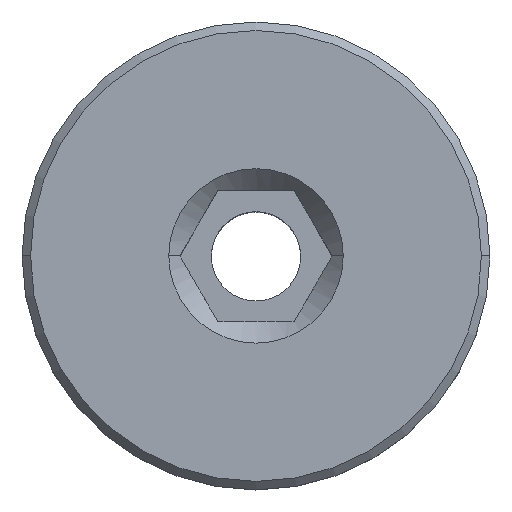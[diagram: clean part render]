
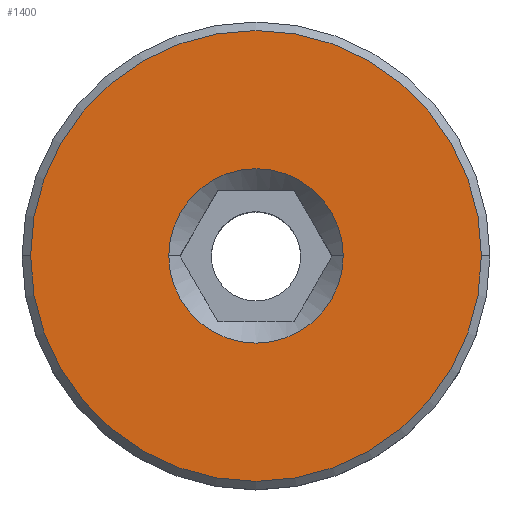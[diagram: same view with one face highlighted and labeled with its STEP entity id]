
A CAD part, top view. The second image highlights one B-rep face of the part: STEP entity #1400.
In plain terms, the highlighted planar face has unit normal (0, 0, 1).
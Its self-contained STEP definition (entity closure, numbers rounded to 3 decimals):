
#2 = CARTESIAN_POINT ( 'NONE',  ( 0., 0., 0. ) ) ;
#32 = CARTESIAN_POINT ( 'NONE',  ( 2.05, 0., 0. ) ) ;
#36 = VERTEX_POINT ( 'NONE', #799 ) ;
#157 = CARTESIAN_POINT ( 'NONE',  ( 0., 0., 0. ) ) ;
#232 = ORIENTED_EDGE ( 'NONE', *, *, #853, .T. ) ;
#499 = CARTESIAN_POINT ( 'NONE',  ( 0., 0., 0. ) ) ;
#545 = ORIENTED_EDGE ( 'NONE', *, *, #2009, .T. ) ;
#673 = CIRCLE ( 'NONE', #887, 2.05 ) ;
#755 = DIRECTION ( 'NONE',  ( 1., 0., 0. ) ) ;
#765 = AXIS2_PLACEMENT_3D ( 'NONE', #499, #969, #1892 ) ;
#793 = CARTESIAN_POINT ( 'NONE',  ( 0., 0., 0. ) ) ;
#799 = CARTESIAN_POINT ( 'NONE',  ( -2.05, 0., 0. ) ) ;
#853 = EDGE_CURVE ( 'NONE', #1318, #1152, #944, .T. ) ;
#854 = DIRECTION ( 'NONE',  ( 0., 0., 1. ) ) ;
#860 = ORIENTED_EDGE ( 'NONE', *, *, #1368, .T. ) ;
#863 = CARTESIAN_POINT ( 'NONE',  ( -5.3, 0., 0. ) ) ;
#868 = AXIS2_PLACEMENT_3D ( 'NONE', #2, #2082, #1530 ) ;
#887 = AXIS2_PLACEMENT_3D ( 'NONE', #793, #1675, #1490 ) ;
#924 = EDGE_LOOP ( 'NONE', ( #545, #1138 ) ) ;
#934 = FACE_BOUND ( 'NONE', #924, .T. ) ;
#944 = CIRCLE ( 'NONE', #868, 5.3 ) ;
#969 = DIRECTION ( 'NONE',  ( 0., 0., -1. ) ) ;
#1077 = PLANE ( 'NONE',  #1881 ) ;
#1138 = ORIENTED_EDGE ( 'NONE', *, *, #1249, .T. ) ;
#1152 = VERTEX_POINT ( 'NONE', #1177 ) ;
#1177 = CARTESIAN_POINT ( 'NONE',  ( 5.3, 0., 0. ) ) ;
#1208 = DIRECTION ( 'NONE',  ( 1., 0., 0. ) ) ;
#1249 = EDGE_CURVE ( 'NONE', #36, #1300, #1746, .T. ) ;
#1281 = FACE_OUTER_BOUND ( 'NONE', #2143, .T. ) ;
#1300 = VERTEX_POINT ( 'NONE', #32 ) ;
#1318 = VERTEX_POINT ( 'NONE', #863 ) ;
#1368 = EDGE_CURVE ( 'NONE', #1152, #1318, #1738, .T. ) ;
#1369 = AXIS2_PLACEMENT_3D ( 'NONE', #157, #854, #1208 ) ;
#1400 = ADVANCED_FACE ( 'NONE', ( #1281, #934 ), #1077, .T. ) ;
#1441 = CARTESIAN_POINT ( 'NONE',  ( 5.5, 0., 0. ) ) ;
#1490 = DIRECTION ( 'NONE',  ( 1., 0., 0. ) ) ;
#1530 = DIRECTION ( 'NONE',  ( 1., 0., 0. ) ) ;
#1675 = DIRECTION ( 'NONE',  ( 0., 0., -1. ) ) ;
#1738 = CIRCLE ( 'NONE', #1369, 5.3 ) ;
#1746 = CIRCLE ( 'NONE', #765, 2.05 ) ;
#1881 = AXIS2_PLACEMENT_3D ( 'NONE', #1441, #2120, #755 ) ;
#1892 = DIRECTION ( 'NONE',  ( 1., 0., 0. ) ) ;
#2009 = EDGE_CURVE ( 'NONE', #1300, #36, #673, .T. ) ;
#2082 = DIRECTION ( 'NONE',  ( 0., 0., 1. ) ) ;
#2120 = DIRECTION ( 'NONE',  ( 0., 0., 1. ) ) ;
#2143 = EDGE_LOOP ( 'NONE', ( #232, #860 ) ) ;
